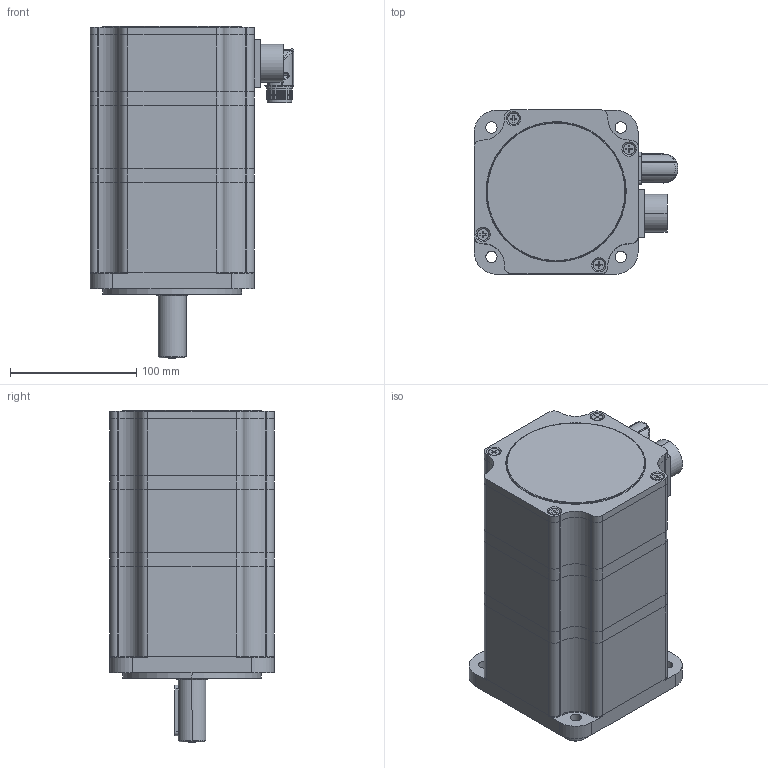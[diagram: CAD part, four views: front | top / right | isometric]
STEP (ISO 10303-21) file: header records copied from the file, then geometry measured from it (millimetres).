
FILE_DESCRIPTION (( 'STEP AP203' ), '1' );
FILE_NAME ('9.6966.STEP', '2018-08-17T07:45:24', ( '' ), ( '' ), 'SwSTEP 2.0', 'SolidWorks 2008', '' );
FILE_SCHEMA (( 'CONFIG_CONTROL_DESIGN' ));
Length unit declared in the file: millimetre
Products named in the file (1): 9.6966
Bounding box: 161.5 x 130 x 263 mm (x, y, z)
Surface area: 170353 mm2 (no closed solid volume)
Topology: 0 solids, 54 shells, 728 faces, 2151 edges, 1431 vertices
Faces by surface type: cylinder 332, plane 306, bspline 50, cone 40
Entity records: 26112 total; most frequent: CARTESIAN_POINT 6763, DIRECTION 4256, ORIENTED_EDGE 3599, EDGE_CURVE 2105, AXIS2_PLACEMENT_3D 1562, VERTEX_POINT 1431, VECTOR 1132, LINE 1132
